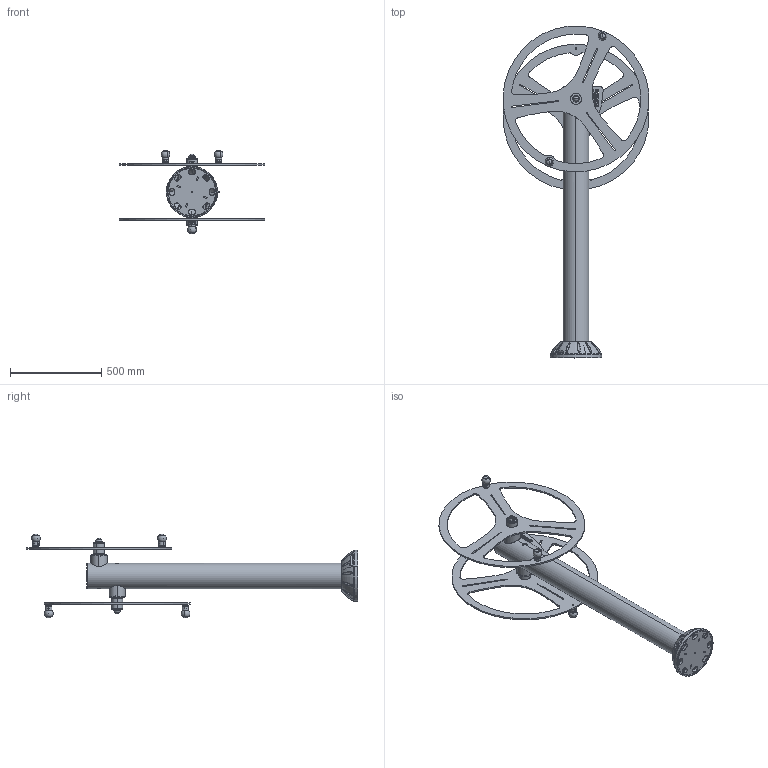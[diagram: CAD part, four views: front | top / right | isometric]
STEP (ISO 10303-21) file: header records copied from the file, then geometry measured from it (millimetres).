
FILE_DESCRIPTION (( 'STEP AP203' ), '1' );
FILE_NAME ('S0203A - BARREUR DOUBLE V1.0.STEP', '2020-03-27T13:51:54', ( '' ), ( '' ), 'SwSTEP 2.0', 'SolidWorks 2019', '' );
FILE_SCHEMA (( 'CONFIG_CONTROL_DESIGN' ));
Length unit declared in the file: millimetre
Products named in the file (33): SC0306C - Petit capuchon en nylon 36 mm; SC0306B - Base pour capuchon en nylon 36mm; PU-TOLPLAT - Platine base V1.0; SC0304 - CACHE PLATINE ASS V4.0; Ass Joint torique Volant - Barreur V1.0; ROUE-S0203 - ROUE BARREUR V1.1; TROND88.9x100 - Tube D.88,9x3 L=100 V1.0; SF1113 - Ecrou M10 A2_default; SR0427 - Rondelle plastique bouchon bague D60 d.20; PU-TOLROND89-20 - Rondelle pour tube D.89 percée d.20 V1.0; SB0129 - Joint torique 18 X 6 _d.28 f.7; PALIER-S0203 - PALIER BARREUR V1.0; SBA1601 - Bague 6204 L60 V1.0; PU-TOLGOPL - Gousset platine V2.0; PU-TROCB1470BAD - Colonne base D.139,7x3 Ht1470 Barreur Double V1.0; SA1431 - Axe acier D.25 L272 V1.0; SB0130 - Joint torique 25X6 _d.28 f.7; PLATINE BASE ASS V2.0; SF1101 - Ecrou frein M10 A2; SCH1806.A - Chapeau D135 V1.2; BATI-S0203A - BATI BARREUR DOUBLE ASS V1.0; S0203A - BARREUR DOUBLE V1.0; SP0608 - Poignée plastique tournante ELESA 247011; TOLROUE-S0203.A - Roue barreur V1.1; TOLLOCOL - Tole logo colonne V1.0; PU-TOLROND89-25 - Rondelle pour tube D.89 percée d.25 V1.0; SRR0816 - Roulement  6204 47-20-14; SC0304 - Demi cache platine D140 V4.0; SR0416 - Rondelle plate petite M10 A2 ext 22mm; SB0112 - Vis Torx teton central M8x20_M8x20
Assembly tree (66 placements, depth 4):
  S0203A - BARREUR DOUBLE V1.0
    BATI-S0203A - BATI BARREUR DOUBLE ASS V1.0
      PLATINE BASE ASS V2.0
        PU-TOLPLAT - Platine base V1.0
        PU-TOLGOPL - Gousset platine V2.0  x4
      PU-TROCB1470BAD - Colonne base D.139,7x3 Ht1470 Barreur Double V1.0
      PALIER-S0203 - PALIER BARREUR V1.0
        TROND88.9x100 - Tube D.88,9x3 L=100 V1.0
        SA1431 - Axe acier D.25 L272 V1.0
        PU-TOLROND89-20 - Rondelle pour tube D.89 percée d.20 V1.0
        PU-TOLROND89-25 - Rondelle pour tube D.89 percée d.25 V1.0
      SCH1806.A - Chapeau D135 V1.2
      PALIER-S0203 - PALIER BARREUR V1.0
        TROND88.9x100 - Tube D.88,9x3 L=100 V1.0
        SA1431 - Axe acier D.25 L272 V1.0
        PU-TOLROND89-20 - Rondelle pour tube D.89 percée d.20 V1.0
        PU-TOLROND89-25 - Rondelle pour tube D.89 percée d.25 V1.0
      TOLLOCOL - Tole logo colonne V1.0
    ROUE-S0203 - ROUE BARREUR V1.1
      TOLROUE-S0203.A - Roue barreur V1.1
      SBA1601 - Bague 6204 L60 V1.0
    ROUE-S0203 - ROUE BARREUR V1.1
      TOLROUE-S0203.A - Roue barreur V1.1
      SBA1601 - Bague 6204 L60 V1.0
    SC0306C - Petit capuchon en nylon 36 mm  x2
    SC0306B - Base pour capuchon en nylon 36mm  x2
    SR0427 - Rondelle plastique bouchon bague D60 d.20  x4
    SRR0816 - Roulement  6204 47-20-14  x4
    SF1101 - Ecrou frein M10 A2  x2
    SR0416 - Rondelle plate petite M10 A2 ext 22mm  x2
    SC0304 - CACHE PLATINE ASS V4.0
      SC0304 - Demi cache platine D140 V4.0
      SB0112 - Vis Torx teton central M8x20_M8x20  x2
    SP0608 - Poignée plastique tournante ELESA 247011  x4
    SF1113 - Ecrou M10 A2_default  x4
    Ass Joint torique Volant - Barreur V1.0
      SB0130 - Joint torique 25X6 _d.28 f.7  x2
      SB0129 - Joint torique 18 X 6 _d.28 f.7  x3
    Ass Joint torique Volant - Barreur V1.0
      SB0130 - Joint torique 25X6 _d.28 f.7  x2
      SB0129 - Joint torique 18 X 6 _d.28 f.7  x3
Bounding box: 800 x 1819.49 x 458.4 mm (x, y, z)
Volume: 7832203.8 mm3; surface area: 3045573.3 mm2
Topology: 74 solids, 74 shells, 1983 faces, 4845 edges, 3066 vertices
Faces by surface type: cylinder 544, plane 471, bspline 338, cone 306, torus 236, sphere 88
Entity records: 128837 total; most frequent: CARTESIAN_POINT 101215, ORIENTED_EDGE 5198, DIRECTION 4308, EDGE_CURVE 2599, AXIS2_PLACEMENT_3D 1765, VERTEX_POINT 1656, EDGE_LOOP 1215, ADVANCED_FACE 1047
